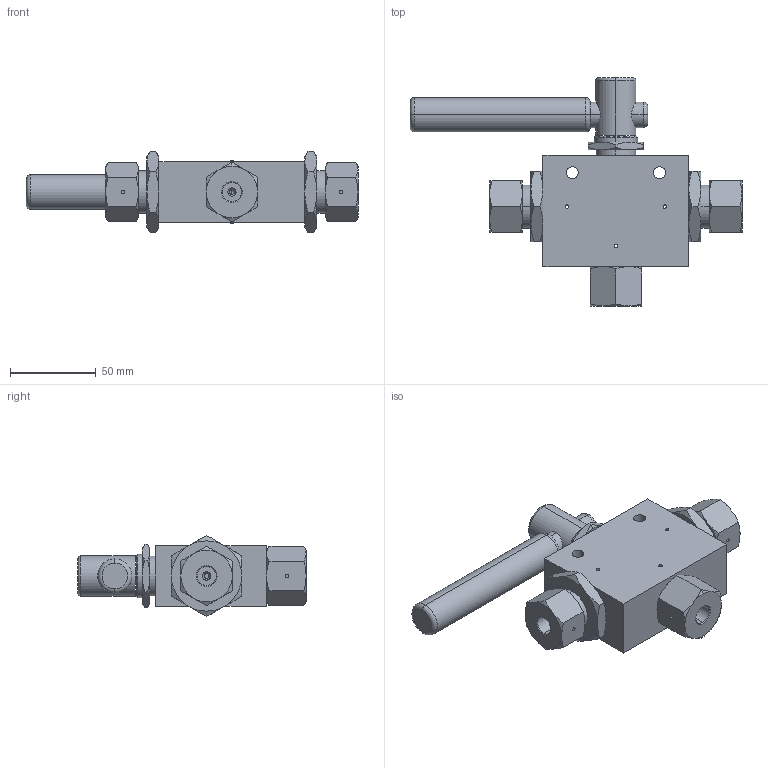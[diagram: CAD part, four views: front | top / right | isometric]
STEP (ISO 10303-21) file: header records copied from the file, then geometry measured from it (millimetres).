
FILE_DESCRIPTION (( 'STEP AP203' ), '1' );
FILE_NAME ('BV2005S04-3-180.STEP', '2022-03-31T10:12:33', ( '' ), ( '' ), 'SwSTEP 2.0', 'SolidWorks 2020', '' );
FILE_SCHEMA (( 'CONFIG_CONTROL_DESIGN' ));
Length unit declared in the file: millimetre
Products named in the file (1): BV2005S04-3-180
Bounding box: 193.5 x 133 x 47.34 mm (x, y, z)
Volume: 314009.6 mm3; surface area: 48653.1 mm2
Topology: 1 solids, 1 shells, 221 faces, 492 edges, 287 vertices
Faces by surface type: cone 96, plane 67, cylinder 50, torus 8
Entity records: 6933 total; most frequent: CARTESIAN_POINT 2133, DIRECTION 978, ORIENTED_EDGE 972, EDGE_CURVE 486, AXIS2_PLACEMENT_3D 424, VERTEX_POINT 287, EDGE_LOOP 257, FACE_OUTER_BOUND 221
